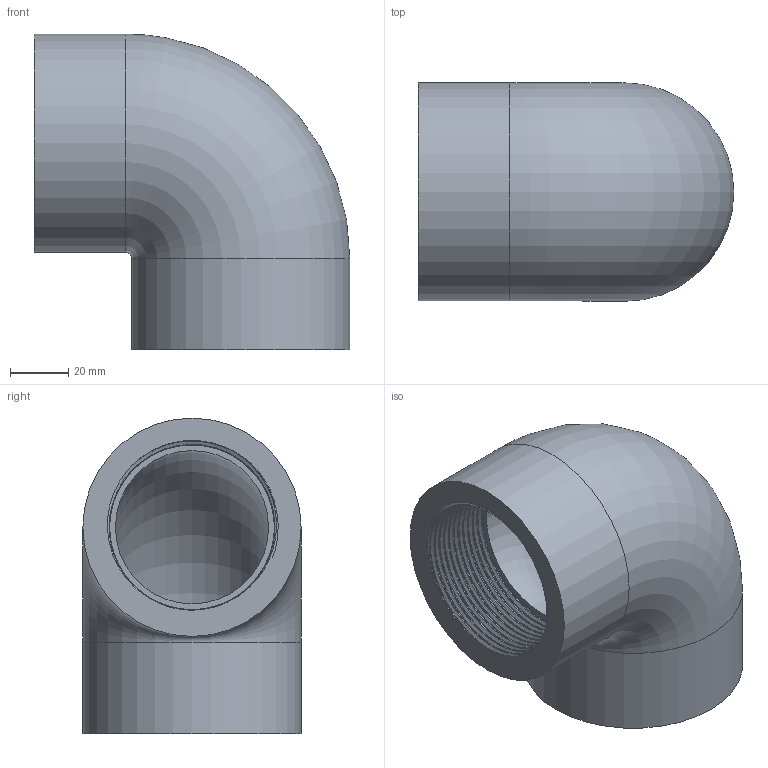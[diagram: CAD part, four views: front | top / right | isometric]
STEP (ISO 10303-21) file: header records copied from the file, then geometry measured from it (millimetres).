
FILE_DESCRIPTION(/* description */ ('PVC gomito a 90° filettato BSP femmina'),/* implementation_level */ '2;1');
FILE_NAME(/* name */ 'C:\Users\POLYPIPE\Desktop\DATASET INVENTOR\LIBRERIA EFFAST\RACCORDI 3DxWEB\RER\3D_RERGOE\3D_RERGOE063G.stp',/* time_stamp */ '2018-01-19T16:18:29+01:00',/* author */ ('POLYPIPE'),/* organization */ ('Polypipe Italia s.r.l.'),/* preprocessor_version */ 'ST-DEVELOPER v16.1',/* originating_system */ 'Autodesk Inventor 2016',/* authorisation */ '');
FILE_SCHEMA (('CONFIG_CONTROL_DESIGN'));
Length unit declared in the file: millimetre
Products named in the file (1): 3D_RERGOE
Bounding box: 108.5 x 75 x 108.5 mm (x, y, z)
Volume: 260157.4 mm3; surface area: 62477.1 mm2
Topology: 1 solids, 1 shells, 24 faces, 52 edges, 32 vertices
Faces by surface type: bspline 10, cylinder 6, plane 6, torus 2
Full cylindrical faces by diameter (mm): 75 x2
Entity records: 9452 total; most frequent: CARTESIAN_POINT 8979, ORIENTED_EDGE 96, DIRECTION 70, EDGE_CURVE 48, EDGE_LOOP 32, VERTEX_POINT 32, AXIS2_PLACEMENT_3D 31, FACE_OUTER_BOUND 24
